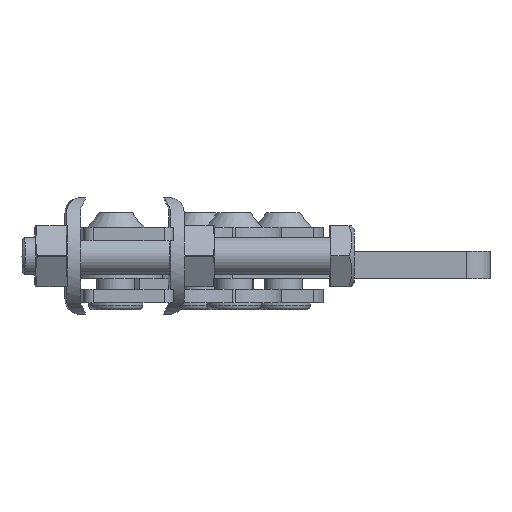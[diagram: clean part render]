
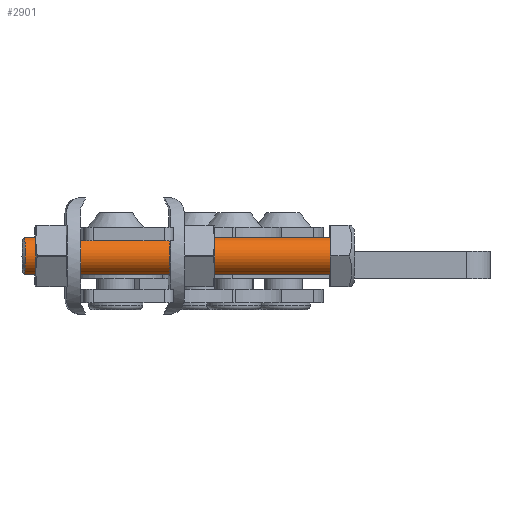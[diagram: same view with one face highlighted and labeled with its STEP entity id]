
A CAD part, left-side view. The second image highlights one B-rep face of the part: STEP entity #2901.
In plain terms, the highlighted cylindrical face has radius 4 mm (diameter 8 mm), a full revolution.
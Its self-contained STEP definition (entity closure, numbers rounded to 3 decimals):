
#304=CYLINDRICAL_SURFACE('',#3472,4.);
#492=FACE_OUTER_BOUND('',#689,.T.);
#689=EDGE_LOOP('',(#2624,#2625,#2626,#2627));
#887=LINE('',#5289,#1087);
#1087=VECTOR('',#4334,4.);
#1250=CIRCLE('',#3471,4.);
#1251=CIRCLE('',#3473,4.);
#1495=VERTEX_POINT('',#5284);
#1496=VERTEX_POINT('',#5288);
#1874=EDGE_CURVE('',#1495,#1495,#1250,.T.);
#1875=EDGE_CURVE('',#1495,#1496,#887,.T.);
#1876=EDGE_CURVE('',#1496,#1496,#1251,.T.);
#2624=ORIENTED_EDGE('',*,*,#1874,.F.);
#2625=ORIENTED_EDGE('',*,*,#1875,.T.);
#2626=ORIENTED_EDGE('',*,*,#1876,.F.);
#2627=ORIENTED_EDGE('',*,*,#1875,.F.);
#2901=ADVANCED_FACE('',(#492),#304,.T.);
#3471=AXIS2_PLACEMENT_3D('',#5286,#4330,#4331);
#3472=AXIS2_PLACEMENT_3D('',#5287,#4332,#4333);
#3473=AXIS2_PLACEMENT_3D('',#5290,#4335,#4336);
#4330=DIRECTION('center_axis',(0.,0.,-1.));
#4331=DIRECTION('ref_axis',(1.,0.,0.));
#4332=DIRECTION('center_axis',(0.,0.,-1.));
#4333=DIRECTION('ref_axis',(1.,0.,0.));
#4334=DIRECTION('',(0.,0.,1.));
#4335=DIRECTION('center_axis',(0.,0.,1.));
#4336=DIRECTION('ref_axis',(1.,0.,0.));
#5284=CARTESIAN_POINT('',(-4.,0.,-64.5));
#5286=CARTESIAN_POINT('Origin',(0.,0.,-64.5));
#5287=CARTESIAN_POINT('Origin',(0.,0.,0.));
#5288=CARTESIAN_POINT('',(-4.,0.,0.));
#5289=CARTESIAN_POINT('',(-4.,0.,0.));
#5290=CARTESIAN_POINT('Origin',(0.,0.,0.));
